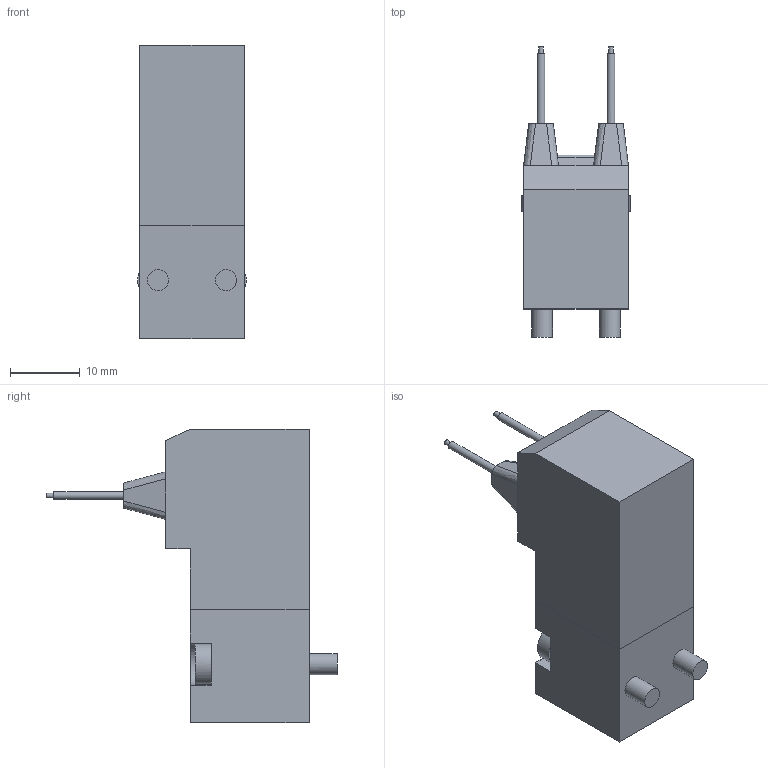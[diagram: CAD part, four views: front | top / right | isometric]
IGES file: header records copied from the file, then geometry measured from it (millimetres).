
Global section: file name: N3##_2#-2; native system: Autodesk Inventor 2014; preprocessor: unknown; author: A. Manieri; organization: Pneumax S.p.A.; date: 20160908.143335; units: millimetre
Bounding box: 15.5 x 41.5 x 42 mm (x, y, z)
Volume: 11853.9 mm3; surface area: 3885.8 mm2
Topology: 1 solids, 1 shells, 97 faces, 245 edges, 158 vertices
Faces by surface type: bspline 97
